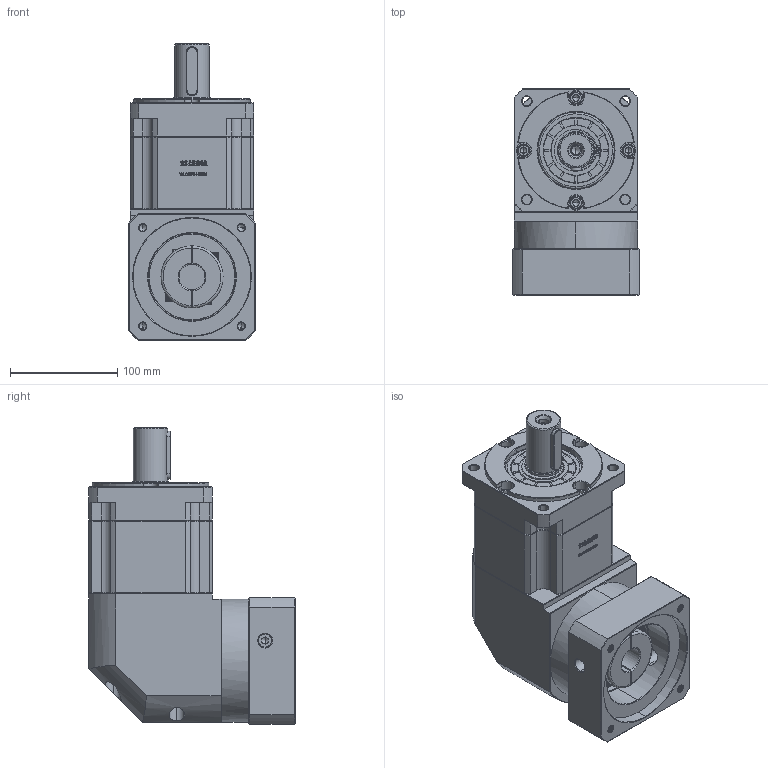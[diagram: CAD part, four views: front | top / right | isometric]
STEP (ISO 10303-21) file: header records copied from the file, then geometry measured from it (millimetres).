
FILE_DESCRIPTION (( 'STEP AP214' ), '1' );
FILE_NAME ('ZBR115A-D32-L2-24-110-130-M8.step', '2023-03-03T05:02:22', ( '' ), ( 'Microsoft' ), 'SwSTEP 2.0', 'SolidWorks 2016', '' );
FILE_SCHEMA (( 'AUTOMOTIVE_DESIGN' ));
Length unit declared in the file: millimetre
Products named in the file (1): ZBR115A-D32-L2-24-110-130-M8
Bounding box: 118 x 192.4 x 276.5 mm (x, y, z)
Volume: 3278937.3 mm3; surface area: 260275.3 mm2
Topology: 6 solids, 6 shells, 2982 faces, 7923 edges, 5087 vertices
Faces by surface type: plane 1559, bspline 606, cylinder 439, cone 370, torus 8
Entity records: 162116 total; most frequent: CARTESIAN_POINT 60064, ORIENTED_EDGE 15786, DIRECTION 11958, EDGE_CURVE 7893, LINE 5308, VECTOR 5308, VERTEX_POINT 5087, AXIS2_PLACEMENT_3D 3325
